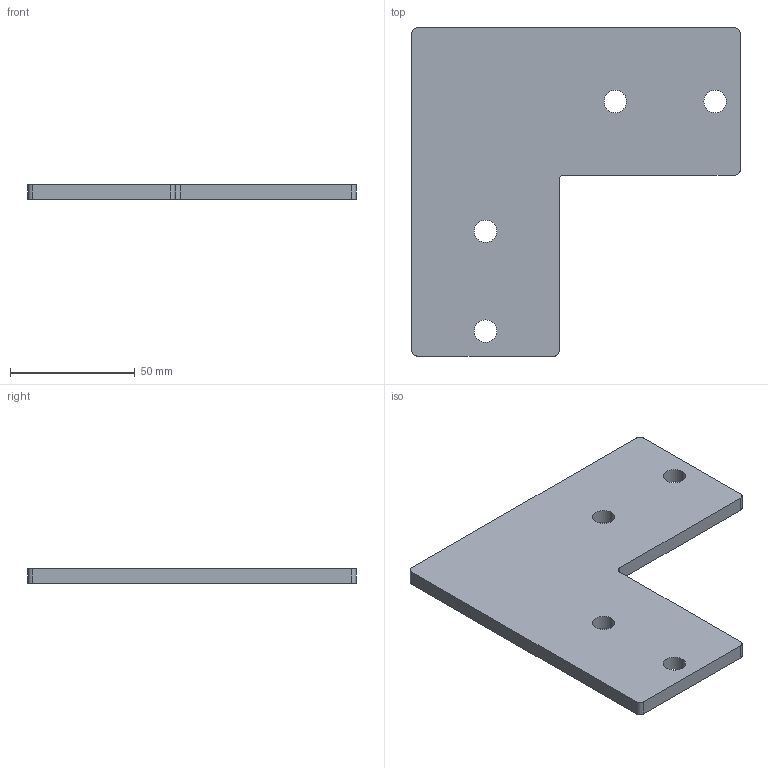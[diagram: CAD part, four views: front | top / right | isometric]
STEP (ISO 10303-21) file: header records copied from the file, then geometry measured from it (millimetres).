
FILE_DESCRIPTION (( 'STEP AP214' ), '1' );
FILE_NAME ('FBCP 60L.step', '2017-04-05T08:00:46', ( '' ), ( '' ), 'SwSTEP 2.0', 'SolidWorks 2015', '' );
FILE_SCHEMA (( 'AUTOMOTIVE_DESIGN' ));
Length unit declared in the file: millimetre
Products named in the file (1): FBCP 60L
Bounding box: 131.5 x 131.5 x 6 mm (x, y, z)
Volume: 70668.6 mm3; surface area: 27359.9 mm2
Topology: 1 solids, 1 shells, 22 faces, 60 edges, 40 vertices
Faces by surface type: cylinder 14, plane 8
Entity records: 762 total; most frequent: DIRECTION 134, CARTESIAN_POINT 123, ORIENTED_EDGE 120, EDGE_CURVE 60, AXIS2_PLACEMENT_3D 51, VERTEX_POINT 40, VECTOR 32, LINE 32
